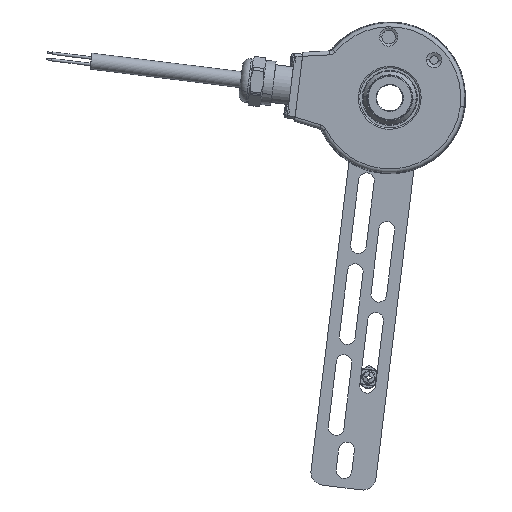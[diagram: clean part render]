
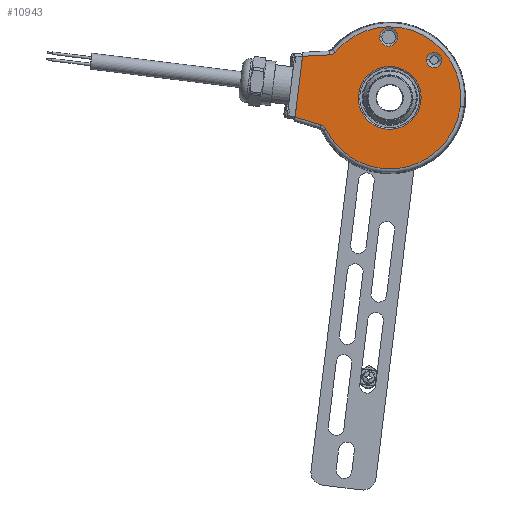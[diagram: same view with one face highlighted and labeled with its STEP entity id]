
A CAD part, left-side view. The second image highlights one B-rep face of the part: STEP entity #10943.
In plain terms, the highlighted planar face has unit normal (-1, 0, 0).
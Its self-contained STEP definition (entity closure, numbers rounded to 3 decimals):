
#10603 = VERTEX_POINT ( 'NONE', #16187 ) ;
#10610 = VERTEX_POINT ( 'NONE', #16175 ) ;
#10612 = EDGE_CURVE ( 'NONE', #10613, #10610, #16174, .T. ) ;
#10613 = VERTEX_POINT ( 'NONE', #16169 ) ;
#10655 = VERTEX_POINT ( 'NONE', #16307 ) ;
#10660 = EDGE_CURVE ( 'NONE', #10661, #10603, #16302, .T. ) ;
#10661 = VERTEX_POINT ( 'NONE', #16351 ) ;
#10699 = EDGE_CURVE ( 'NONE', #10700, #10701, #16517, .T. ) ;
#10700 = VERTEX_POINT ( 'NONE', #16508 ) ;
#10701 = VERTEX_POINT ( 'NONE', #16507 ) ;
#10711 = EDGE_CURVE ( 'NONE', #10712, #10655, #16540, .T. ) ;
#10712 = VERTEX_POINT ( 'NONE', #16535 ) ;
#10771 = VERTEX_POINT ( 'NONE', #16755 ) ;
#10775 = VERTEX_POINT ( 'NONE', #16753 ) ;
#10777 = EDGE_CURVE ( 'NONE', #10771, #10775, #16752, .T. ) ;
#10799 = VERTEX_POINT ( 'NONE', #16800 ) ;
#10801 = EDGE_CURVE ( 'NONE', #10812, #10799, #16798, .T. ) ;
#10811 = EDGE_CURVE ( 'NONE', #10812, #10775, #17036, .T. ) ;
#10812 = VERTEX_POINT ( 'NONE', #17032 ) ;
#10844 = EDGE_CURVE ( 'NONE', #10655, #10712, #17130, .T. ) ;
#10855 = EDGE_CURVE ( 'NONE', #10771, #10701, #17340, .T. ) ;
#10863 = VERTEX_POINT ( 'NONE', #17365 ) ;
#10865 = EDGE_CURVE ( 'NONE', #10863, #10799, #17362, .T. ) ;
#10870 = EDGE_CURVE ( 'NONE', #10863, #10700, #17386, .T. ) ;
#10891 = EDGE_CURVE ( 'NONE', #10603, #10661, #17483, .T. ) ;
#10928 = ORIENTED_EDGE ( 'NONE', *, *, #10777, .T. ) ;
#10929 = ORIENTED_EDGE ( 'NONE', *, *, #10811, .F. ) ;
#10930 = ORIENTED_EDGE ( 'NONE', *, *, #10801, .T. ) ;
#10931 = ORIENTED_EDGE ( 'NONE', *, *, #10865, .F. ) ;
#10932 = ORIENTED_EDGE ( 'NONE', *, *, #10870, .T. ) ;
#10933 = ORIENTED_EDGE ( 'NONE', *, *, #10699, .T. ) ;
#10942 = EDGE_CURVE ( 'NONE', #10610, #10613, #17635, .T. ) ;
#10943 = ADVANCED_FACE ( 'NONE', ( #17636, #17630, #17629, #17628 ), #17673, .F. ) ;
#10944 = EDGE_LOOP ( 'NONE', ( #10945, #10946 ) ) ;
#10945 = ORIENTED_EDGE ( 'NONE', *, *, #10612, .T. ) ;
#10946 = ORIENTED_EDGE ( 'NONE', *, *, #10942, .T. ) ;
#10947 = EDGE_LOOP ( 'NONE', ( #10948, #10949 ) ) ;
#10948 = ORIENTED_EDGE ( 'NONE', *, *, #10660, .T. ) ;
#10949 = ORIENTED_EDGE ( 'NONE', *, *, #10891, .T. ) ;
#16169 = CARTESIAN_POINT ( 'NONE',  ( -19., -14.042, 14.804 ) ) ;
#16170 = DIRECTION ( 'NONE',  ( 0., -0.993, -0.122 ) ) ;
#16171 = DIRECTION ( 'NONE',  ( 1., 0., 0. ) ) ;
#16172 = CARTESIAN_POINT ( 'NONE',  ( -19., -16.919, 14.45 ) ) ;
#16173 = AXIS2_PLACEMENT_3D ( 'NONE', #16172, #16171, #16170 ) ;
#16174 = CIRCLE ( 'NONE', #16173, 2.899 ) ;
#16175 = CARTESIAN_POINT ( 'NONE',  ( -19., -19.796, 14.097 ) ) ;
#16187 = CARTESIAN_POINT ( 'NONE',  ( -19., -3.034, 22.824 ) ) ;
#16300 = CARTESIAN_POINT ( 'NONE',  ( -19., 0.406, 23.246 ) ) ;
#16301 = AXIS2_PLACEMENT_3D ( 'NONE', #16300, #16353, #16352 ) ;
#16302 = CIRCLE ( 'NONE', #16301, 3.466 ) ;
#16307 = CARTESIAN_POINT ( 'NONE',  ( -19., 11.911, 1.462 ) ) ;
#16351 = CARTESIAN_POINT ( 'NONE',  ( -19., 3.846, 23.669 ) ) ;
#16352 = DIRECTION ( 'NONE',  ( 0., -0.993, -0.122 ) ) ;
#16353 = DIRECTION ( 'NONE',  ( 1., 0., 0. ) ) ;
#16507 = CARTESIAN_POINT ( 'NONE',  ( -19., 20.777, 17.512 ) ) ;
#16508 = CARTESIAN_POINT ( 'NONE',  ( -19., -26.97, -3.312 ) ) ;
#16509 = DIRECTION ( 'NONE',  ( 0., -0.993, -0.122 ) ) ;
#16510 = DIRECTION ( 'NONE',  ( -1., 0., 0. ) ) ;
#16511 = CARTESIAN_POINT ( 'NONE',  ( -19., 0., 0. ) ) ;
#16512 = AXIS2_PLACEMENT_3D ( 'NONE', #16511, #16510, #16509 ) ;
#16517 = CIRCLE ( 'NONE', #16512, 27.173 ) ;
#16535 = CARTESIAN_POINT ( 'NONE',  ( -19., -11.911, -1.462 ) ) ;
#16536 = DIRECTION ( 'NONE',  ( 0., -0.993, -0.122 ) ) ;
#16537 = DIRECTION ( 'NONE',  ( 1., 0., 0. ) ) ;
#16538 = CARTESIAN_POINT ( 'NONE',  ( -19., 0., 0. ) ) ;
#16539 = AXIS2_PLACEMENT_3D ( 'NONE', #16538, #16537, #16536 ) ;
#16540 = CIRCLE ( 'NONE', #16539, 12. ) ;
#16745 = DIRECTION ( 'NONE',  ( 0., 0.999, -0.052 ) ) ;
#16746 = VECTOR ( 'NONE', #16745, 1000. ) ;
#16747 = CARTESIAN_POINT ( 'NONE',  ( -19., 33.046, 15.919 ) ) ;
#16752 = LINE ( 'NONE', #16747, #16746 ) ;
#16753 = CARTESIAN_POINT ( 'NONE',  ( -19., 33.31, 15.905 ) ) ;
#16755 = CARTESIAN_POINT ( 'NONE',  ( -19., 22.914, 16.45 ) ) ;
#16795 = DIRECTION ( 'NONE',  ( 0., -0.956, -0.292 ) ) ;
#16796 = VECTOR ( 'NONE', #16795, 1000. ) ;
#16797 = CARTESIAN_POINT ( 'NONE',  ( -19., 25.556, -10.618 ) ) ;
#16798 = LINE ( 'NONE', #16797, #16796 ) ;
#16800 = CARTESIAN_POINT ( 'NONE',  ( -19., 26.213, -10.418 ) ) ;
#17032 = CARTESIAN_POINT ( 'NONE',  ( -19., 36.168, -7.374 ) ) ;
#17033 = DIRECTION ( 'NONE',  ( 0., -0.122, 0.993 ) ) ;
#17034 = VECTOR ( 'NONE', #17033, 1000. ) ;
#17035 = CARTESIAN_POINT ( 'NONE',  ( -19., 36.354, -8.886 ) ) ;
#17036 = LINE ( 'NONE', #17035, #17034 ) ;
#17121 = DIRECTION ( 'NONE',  ( 0., -0.993, -0.122 ) ) ;
#17122 = DIRECTION ( 'NONE',  ( 1., 0., 0. ) ) ;
#17123 = CARTESIAN_POINT ( 'NONE',  ( -19., 0., 0. ) ) ;
#17124 = AXIS2_PLACEMENT_3D ( 'NONE', #17123, #17122, #17121 ) ;
#17130 = CIRCLE ( 'NONE', #17124, 12. ) ;
#17322 = CARTESIAN_POINT ( 'NONE',  ( -19., 20.777, 17.512 ) ) ;
#17323 = CARTESIAN_POINT ( 'NONE',  ( -19., 20.91, 17.355 ) ) ;
#17324 = CARTESIAN_POINT ( 'NONE',  ( -19., 21.056, 17.213 ) ) ;
#17325 = CARTESIAN_POINT ( 'NONE',  ( -19., 21.376, 16.962 ) ) ;
#17326 = CARTESIAN_POINT ( 'NONE',  ( -19., 21.552, 16.851 ) ) ;
#17327 = CARTESIAN_POINT ( 'NONE',  ( -19., 21.917, 16.669 ) ) ;
#17328 = CARTESIAN_POINT ( 'NONE',  ( -19., 22.108, 16.597 ) ) ;
#17329 = CARTESIAN_POINT ( 'NONE',  ( -19., 22.503, 16.493 ) ) ;
#17330 = CARTESIAN_POINT ( 'NONE',  ( -19., 22.708, 16.461 ) ) ;
#17331 = CARTESIAN_POINT ( 'NONE',  ( -19., 22.914, 16.45 ) ) ;
#17340 = B_SPLINE_CURVE_WITH_KNOTS ( 'NONE', 3,
 ( #17331, #17330, #17329, #17328, #17327, #17326, #17325, #17324, #17323, #17322 ),
 .UNSPECIFIED., .F., .F.,
 ( 4, 2, 2, 2, 4 ),
 ( 0., 0.001, 0.001, 0.002, 0.002 ),
 .UNSPECIFIED. ) ;
#17358 = CARTESIAN_POINT ( 'NONE',  ( -19., 24.597, -11.605 ) ) ;
#17359 = CARTESIAN_POINT ( 'NONE',  ( -19., 24.487, -11.781 ) ) ;
#17360 = CARTESIAN_POINT ( 'NONE',  ( -19., 24.396, -11.966 ) ) ;
#17362 = B_SPLINE_CURVE_WITH_KNOTS ( 'NONE', 3,
 ( #17360, #17359, #17358, #17401, #17400, #17399, #17398, #17397, #17396, #17395 ),
 .UNSPECIFIED., .F., .F.,
 ( 4, 2, 2, 2, 4 ),
 ( 0., 0.001, 0.001, 0.002, 0.002 ),
 .UNSPECIFIED. ) ;
#17365 = CARTESIAN_POINT ( 'NONE',  ( -19., 24.396, -11.966 ) ) ;
#17380 = CARTESIAN_POINT ( 'NONE',  ( -19., 0., 0. ) ) ;
#17381 = AXIS2_PLACEMENT_3D ( 'NONE', #17380, #17429, #17428 ) ;
#17386 = CIRCLE ( 'NONE', #17381, 27.173 ) ;
#17395 = CARTESIAN_POINT ( 'NONE',  ( -19., 26.213, -10.418 ) ) ;
#17396 = CARTESIAN_POINT ( 'NONE',  ( -19., 26.016, -10.478 ) ) ;
#17397 = CARTESIAN_POINT ( 'NONE',  ( -19., 25.828, -10.557 ) ) ;
#17398 = CARTESIAN_POINT ( 'NONE',  ( -19., 25.471, -10.753 ) ) ;
#17399 = CARTESIAN_POINT ( 'NONE',  ( -19., 25.3, -10.87 ) ) ;
#17400 = CARTESIAN_POINT ( 'NONE',  ( -19., 24.989, -11.135 ) ) ;
#17401 = CARTESIAN_POINT ( 'NONE',  ( -19., 24.848, -11.282 ) ) ;
#17428 = DIRECTION ( 'NONE',  ( 0., -0.993, -0.122 ) ) ;
#17429 = DIRECTION ( 'NONE',  ( -1., 0., 0. ) ) ;
#17474 = DIRECTION ( 'NONE',  ( 0., -0.993, -0.122 ) ) ;
#17475 = DIRECTION ( 'NONE',  ( 1., 0., 0. ) ) ;
#17476 = CARTESIAN_POINT ( 'NONE',  ( -19., 0.406, 23.246 ) ) ;
#17477 = AXIS2_PLACEMENT_3D ( 'NONE', #17476, #17475, #17474 ) ;
#17483 = CIRCLE ( 'NONE', #17477, 3.466 ) ;
#17628 = FACE_OUTER_BOUND ( 'NONE', #19082, .T. ) ;
#17629 = FACE_BOUND ( 'NONE', #19072, .T. ) ;
#17630 = FACE_BOUND ( 'NONE', #10947, .T. ) ;
#17631 = DIRECTION ( 'NONE',  ( 0., -0.993, -0.122 ) ) ;
#17632 = DIRECTION ( 'NONE',  ( 1., 0., 0. ) ) ;
#17633 = CARTESIAN_POINT ( 'NONE',  ( -19., -16.919, 14.45 ) ) ;
#17634 = AXIS2_PLACEMENT_3D ( 'NONE', #17633, #17632, #17631 ) ;
#17635 = CIRCLE ( 'NONE', #17634, 2.899 ) ;
#17636 = FACE_BOUND ( 'NONE', #10944, .T. ) ;
#17669 = DIRECTION ( 'NONE',  ( 0., -0.993, -0.122 ) ) ;
#17670 = DIRECTION ( 'NONE',  ( 1., 0., 0. ) ) ;
#17671 = CARTESIAN_POINT ( 'NONE',  ( -19., 0., 0. ) ) ;
#17672 = AXIS2_PLACEMENT_3D ( 'NONE', #17671, #17670, #17669 ) ;
#17673 = PLANE ( 'NONE',  #17672 ) ;
#19072 = EDGE_LOOP ( 'NONE', ( #19077, #19076 ) ) ;
#19076 = ORIENTED_EDGE ( 'NONE', *, *, #10844, .T. ) ;
#19077 = ORIENTED_EDGE ( 'NONE', *, *, #10711, .T. ) ;
#19081 = ORIENTED_EDGE ( 'NONE', *, *, #10855, .F. ) ;
#19082 = EDGE_LOOP ( 'NONE', ( #19081, #10928, #10929, #10930, #10931, #10932, #10933 ) ) ;
